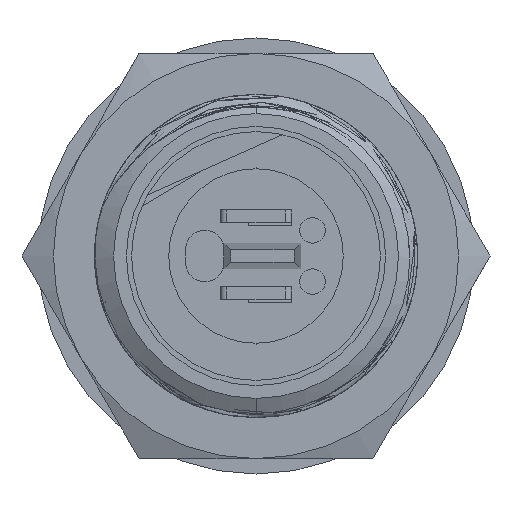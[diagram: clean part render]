
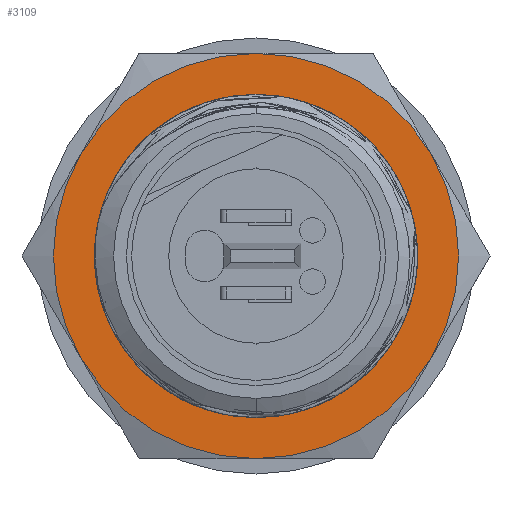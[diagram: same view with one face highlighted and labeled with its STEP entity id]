
A CAD part, left-side view. The second image highlights one B-rep face of the part: STEP entity #3109.
In plain terms, the highlighted planar face has unit normal (-1, 0, 0) as drawn and (0, 0, 1) by its records, which use the part's own axes.
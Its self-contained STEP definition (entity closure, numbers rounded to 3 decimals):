
#1230 = DIRECTION ( 'NONE',  ( 1., 0., 0. ) ) ;
#1334 = CIRCLE ( 'NONE', #12012, 6.054 ) ;
#2894 = EDGE_CURVE ( 'NONE', #10526, #14989, #12896, .T. ) ;
#3075 = DIRECTION ( 'NONE',  ( 1., 0., 0. ) ) ;
#3109 = ADVANCED_FACE ( 'NONE', ( #5365, #4818 ), #13980, .T. ) ;
#3266 = ORIENTED_EDGE ( 'NONE', *, *, #2894, .T. ) ;
#3507 = CARTESIAN_POINT ( 'NONE',  ( 0., 0., 1.5 ) ) ;
#3564 = DIRECTION ( 'NONE',  ( 0., 0., -1. ) ) ;
#3577 = ORIENTED_EDGE ( 'NONE', *, *, #11523, .T. ) ;
#3601 = DIRECTION ( 'NONE',  ( 1., 0., 0. ) ) ;
#4675 = DIRECTION ( 'NONE',  ( 0., 0., -1. ) ) ;
#4784 = CARTESIAN_POINT ( 'NONE',  ( 0., 0., 1.5 ) ) ;
#4818 = FACE_OUTER_BOUND ( 'NONE', #12027, .T. ) ;
#5365 = FACE_BOUND ( 'NONE', #12927, .T. ) ;
#7029 = AXIS2_PLACEMENT_3D ( 'NONE', #4784, #9512, #11856 ) ;
#7042 = DIRECTION ( 'NONE',  ( 0., 0., 1. ) ) ;
#7062 = CARTESIAN_POINT ( 'NONE',  ( 0., 0., 1.5 ) ) ;
#7438 = CARTESIAN_POINT ( 'NONE',  ( 7.898, 0., 1.5 ) ) ;
#7462 = VERTEX_POINT ( 'NONE', #11199 ) ;
#7905 = VERTEX_POINT ( 'NONE', #7957 ) ;
#7957 = CARTESIAN_POINT ( 'NONE',  ( 6.054, 0., 1.5 ) ) ;
#8275 = DIRECTION ( 'NONE',  ( 1., 0., 0. ) ) ;
#8981 = DIRECTION ( 'NONE',  ( 0., 0., 1. ) ) ;
#9392 = EDGE_CURVE ( 'NONE', #7462, #7905, #1334, .T. ) ;
#9512 = DIRECTION ( 'NONE',  ( 0., 0., 1. ) ) ;
#9937 = AXIS2_PLACEMENT_3D ( 'NONE', #12930, #7042, #3601 ) ;
#10526 = VERTEX_POINT ( 'NONE', #11274 ) ;
#10588 = CIRCLE ( 'NONE', #13428, 6.054 ) ;
#10648 = CIRCLE ( 'NONE', #11331, 7.898 ) ;
#11199 = CARTESIAN_POINT ( 'NONE',  ( -6.054, 0., 1.5 ) ) ;
#11274 = CARTESIAN_POINT ( 'NONE',  ( -7.898, 0., 1.5 ) ) ;
#11331 = AXIS2_PLACEMENT_3D ( 'NONE', #13553, #8981, #3075 ) ;
#11523 = EDGE_CURVE ( 'NONE', #14989, #10526, #10648, .T. ) ;
#11856 = DIRECTION ( 'NONE',  ( 1., 0., 0. ) ) ;
#12012 = AXIS2_PLACEMENT_3D ( 'NONE', #7062, #3564, #8275 ) ;
#12027 = EDGE_LOOP ( 'NONE', ( #3266, #3577 ) ) ;
#12561 = ORIENTED_EDGE ( 'NONE', *, *, #9392, .T. ) ;
#12896 = CIRCLE ( 'NONE', #9937, 7.898 ) ;
#12927 = EDGE_LOOP ( 'NONE', ( #13956, #12561 ) ) ;
#12930 = CARTESIAN_POINT ( 'NONE',  ( 0., 0., 1.5 ) ) ;
#13428 = AXIS2_PLACEMENT_3D ( 'NONE', #3507, #4675, #1230 ) ;
#13553 = CARTESIAN_POINT ( 'NONE',  ( 0., 0., 1.5 ) ) ;
#13956 = ORIENTED_EDGE ( 'NONE', *, *, #14742, .T. ) ;
#13980 = PLANE ( 'NONE',  #7029 ) ;
#14742 = EDGE_CURVE ( 'NONE', #7905, #7462, #10588, .T. ) ;
#14989 = VERTEX_POINT ( 'NONE', #7438 ) ;
